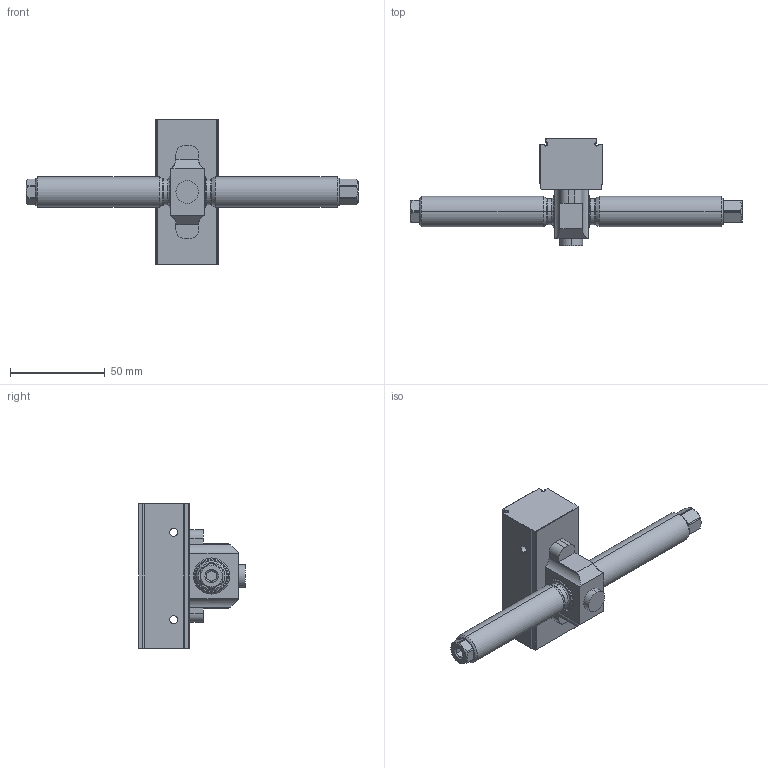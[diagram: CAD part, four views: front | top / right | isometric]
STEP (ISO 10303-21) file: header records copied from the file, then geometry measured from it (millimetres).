
FILE_DESCRIPTION (( 'STEP AP214' ), '1' );
FILE_NAME ('47160-TG27.STEP', '2023-02-10T12:50:28', ( '' ), ( '' ), 'SwSTEP 2.0', 'SolidWorks 2021', '' );
FILE_SCHEMA (( 'AUTOMOTIVE_DESIGN' ));
Length unit declared in the file: millimetre
Products named in the file (1): 47160-TG27
Bounding box: 175 x 56.4 x 76.6 mm (x, y, z)
Volume: 111076 mm3; surface area: 24698.5 mm2
Topology: 2 solids, 2 shells, 167 faces, 409 edges, 254 vertices
Faces by surface type: plane 80, cylinder 47, cone 32, torus 8
Entity records: 6985 total; most frequent: CARTESIAN_POINT 1127, DIRECTION 847, ORIENTED_EDGE 818, EDGE_CURVE 409, AXIS2_PLACEMENT_3D 306, VERTEX_POINT 254, LINE 235, VECTOR 235
